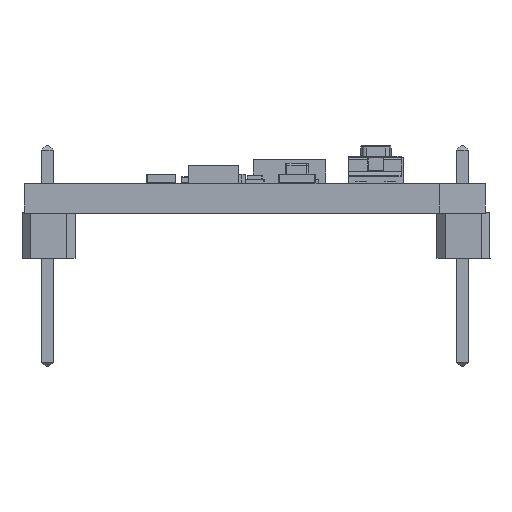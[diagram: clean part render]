
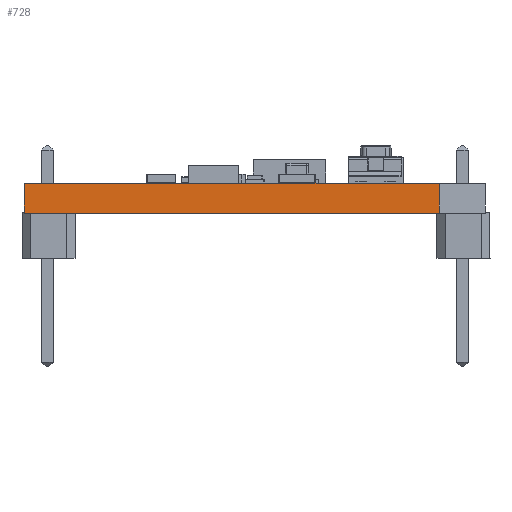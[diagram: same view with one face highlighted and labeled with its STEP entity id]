
A CAD part, front view. The second image highlights one B-rep face of the part: STEP entity #728.
In plain terms, the highlighted planar face has unit normal (0, -1, 0).
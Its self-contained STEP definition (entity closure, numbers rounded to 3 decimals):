
#703 = VERTEX_POINT('',#704);
#704 = CARTESIAN_POINT('',(21.59,-3.81,0.));
#710 = EDGE_CURVE('',#711,#703,#713,.T.);
#711 = VERTEX_POINT('',#712);
#712 = CARTESIAN_POINT('',(21.59,-3.81,-1.65));
#713 = LINE('',#714,#715);
#714 = CARTESIAN_POINT('',(21.59,-3.81,-1.65));
#715 = VECTOR('',#716,1.);
#716 = DIRECTION('',(0.,0.,1.));
#728 = ADVANCED_FACE('',(#729),#754,.T.);
#729 = FACE_BOUND('',#730,.T.);
#730 = EDGE_LOOP('',(#731,#732,#740,#748));
#731 = ORIENTED_EDGE('',*,*,#710,.T.);
#732 = ORIENTED_EDGE('',*,*,#733,.T.);
#733 = EDGE_CURVE('',#703,#734,#736,.T.);
#734 = VERTEX_POINT('',#735);
#735 = CARTESIAN_POINT('',(-1.27,-3.81,0.));
#736 = LINE('',#737,#738);
#737 = CARTESIAN_POINT('',(21.59,-3.81,0.));
#738 = VECTOR('',#739,1.);
#739 = DIRECTION('',(-1.,0.,0.));
#740 = ORIENTED_EDGE('',*,*,#741,.F.);
#741 = EDGE_CURVE('',#742,#734,#744,.T.);
#742 = VERTEX_POINT('',#743);
#743 = CARTESIAN_POINT('',(-1.27,-3.81,-1.65));
#744 = LINE('',#745,#746);
#745 = CARTESIAN_POINT('',(-1.27,-3.81,-1.65));
#746 = VECTOR('',#747,1.);
#747 = DIRECTION('',(0.,0.,1.));
#748 = ORIENTED_EDGE('',*,*,#749,.F.);
#749 = EDGE_CURVE('',#711,#742,#750,.T.);
#750 = LINE('',#751,#752);
#751 = CARTESIAN_POINT('',(21.59,-3.81,-1.65));
#752 = VECTOR('',#753,1.);
#753 = DIRECTION('',(-1.,0.,0.));
#754 = PLANE('',#755);
#755 = AXIS2_PLACEMENT_3D('',#756,#757,#758);
#756 = CARTESIAN_POINT('',(21.59,-3.81,-1.65));
#757 = DIRECTION('',(0.,-1.,0.));
#758 = DIRECTION('',(-1.,0.,0.));
